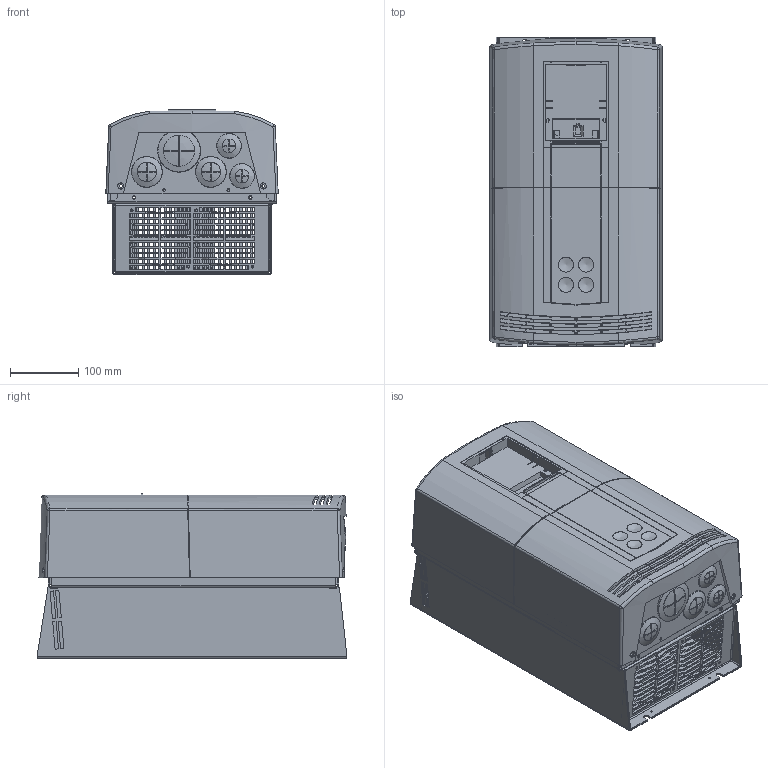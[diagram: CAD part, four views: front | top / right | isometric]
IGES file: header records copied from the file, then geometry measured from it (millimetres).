
Global section: file name: C:\itimms\modelfiles\pdct_c3d.igs; preprocessor: I-DEAS 3D IGES Translator 12; date: 20070315.151945; units: millimetre
Bounding box: 252 x 453.01 x 241.45 mm (x, y, z)
Volume: 278669.2 mm3; surface area: 1608607.6 mm2
Topology: 24 solids, 24 shells, 3798 faces, 16236 edges, 13902 vertices
Faces by surface type: bspline 3798
